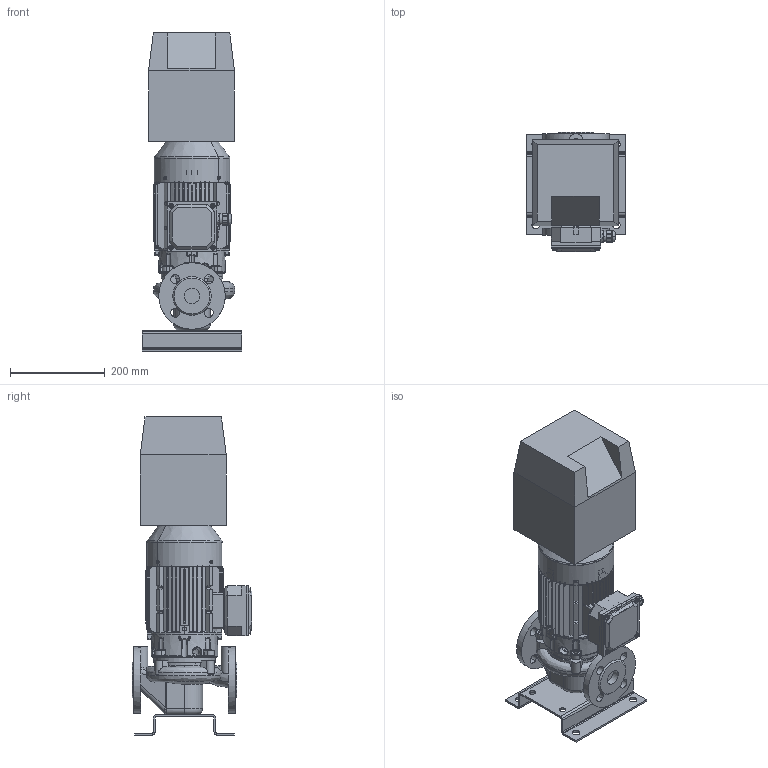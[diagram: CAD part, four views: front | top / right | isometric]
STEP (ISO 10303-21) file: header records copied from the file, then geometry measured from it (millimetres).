
FILE_DESCRIPTION(('STEP AP214'),'1');
FILE_NAME('export.stp','2018-08-09T05:21:18',(' '),(' '),'Spatial InterOp 3D',' ',' ');
FILE_SCHEMA(('AUTOMOTIVE_DESIGN { 1 0 10303 214 1 1 1 1 }'));
Length unit declared in the file: millimetre
Products named in the file (27): W_L32A2NC110KP; V_TLL32AAP15AKP25; V_PPL32A; V_JALKA35973; 160018; 160002_Valu; V_KP80-1_N12; M5x8_DIN; DIN_7985-M5X8; 160141; M5x12_DIN; DIN_7985-M5X12; 160137; 160138; 160139; 160140; Koura_Ale_M5; Plug_Blind_M20; Sealing_Plug_M20; plain_washer_grade_a_din_Washer_; 160039___; 160040___; 160133; NC_Size1
Assembly tree (29 placements, depth 5):
  W_L32A2NC110KP
    V_TLL32AAP15AKP25
    V_PPL32A
    V_JALKA35973
    V_KP80-1_N12
      160018
        160002_Valu
      160141
        M5x8_DIN
          DIN_7985-M5X8
        M5x12_DIN
          DIN_7985-M5X12
        M5x12_DIN
          DIN_7985-M5X12
        M5x12_DIN
          DIN_7985-M5X12
        M5x12_DIN
          DIN_7985-M5X12
        160137
        160138
        160139
        160140
        Koura_Ale_M5
        Plug_Blind_M20
        Sealing_Plug_M20
        plain_washer_grade_a_din_Washer_
      160039___
      160040___
      160133
    NC_Size1
Bounding box: 210 x 251.5 x 670 mm (x, y, z)
Volume: 10011692.9 mm3; surface area: 1189518.8 mm2
Topology: 21 solids, 21 shells, 2998 faces, 7844 edges, 4891 vertices
Faces by surface type: plane 1116, cylinder 916, bspline 454, torus 304, cone 145, sphere 63
Entity records: 125495 total; most frequent: CARTESIAN_POINT 52418, ORIENTED_EDGE 15268, DIRECTION 13567, EDGE_CURVE 7634, AXIS2_PLACEMENT_3D 5136, VERTEX_POINT 4795, LINE 3295, VECTOR 3295
